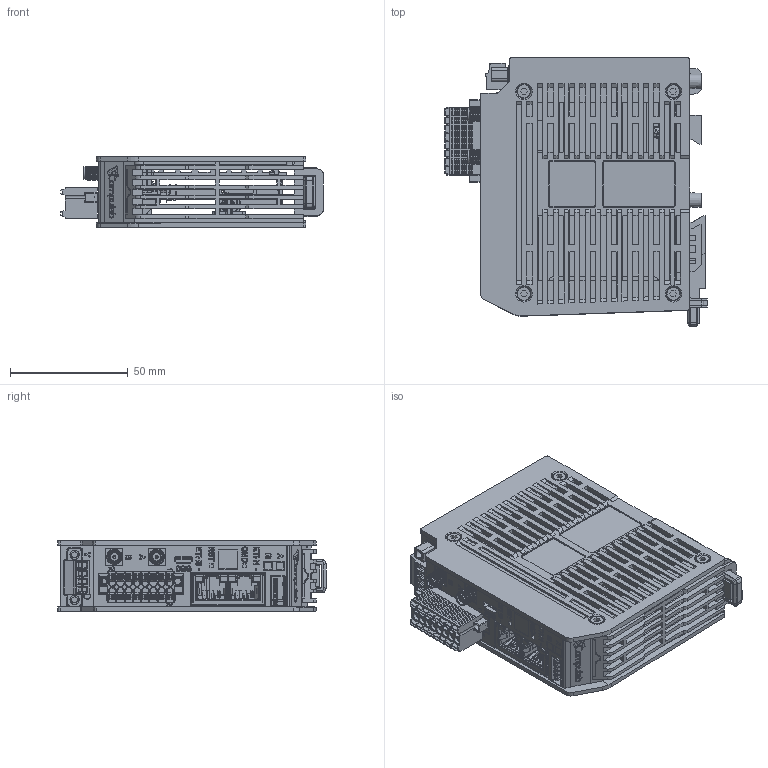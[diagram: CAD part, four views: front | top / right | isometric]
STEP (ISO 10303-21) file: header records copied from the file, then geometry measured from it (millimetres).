
FILE_DESCRIPTION (( 'STEP AP214' ), '1' );
FILE_NAME ('IOT-DIN-IMX8PLUS.STEP', '2024-05-05T16:01:43', ( '' ), ( '' ), 'SwSTEP 2.0', 'SolidWorks 2015', '' );
FILE_SCHEMA (( 'AUTOMOTIVE_DESIGN' ));
Length unit declared in the file: millimetre
Products named in the file (1): IOT-DIN-IMX8PLUS
Bounding box: 111.66 x 114.07 x 30.1 mm (x, y, z)
Surface area: 89567.4 mm2 (no closed solid volume)
Topology: 0 solids, 173 shells, 3290 faces, 13668 edges, 10284 vertices
Faces by surface type: plane 2464, cylinder 450, bspline 198, cone 156, torus 21, sphere 1
Full cylindrical faces by diameter (mm): 1 x1, 1.3 x1, 2.299 x8, 2.5 x2, 2.85 x2, 2.9 x4, 3.1 x16, 3.79 x1, 3.8 x2, 3.9 x2, 4.61 x2, 4.8 x2, 5 x1, 5.35 x2, 5.451 x18, 5.5 x4
Entity records: 186299 total; most frequent: CARTESIAN_POINT 44681, ORIENTED_EDGE 20406, DIRECTION 19239, EDGE_CURVE 13486, VERTEX_POINT 10224, VECTOR 10151, LINE 10151, AXIS2_PLACEMENT_3D 4544
